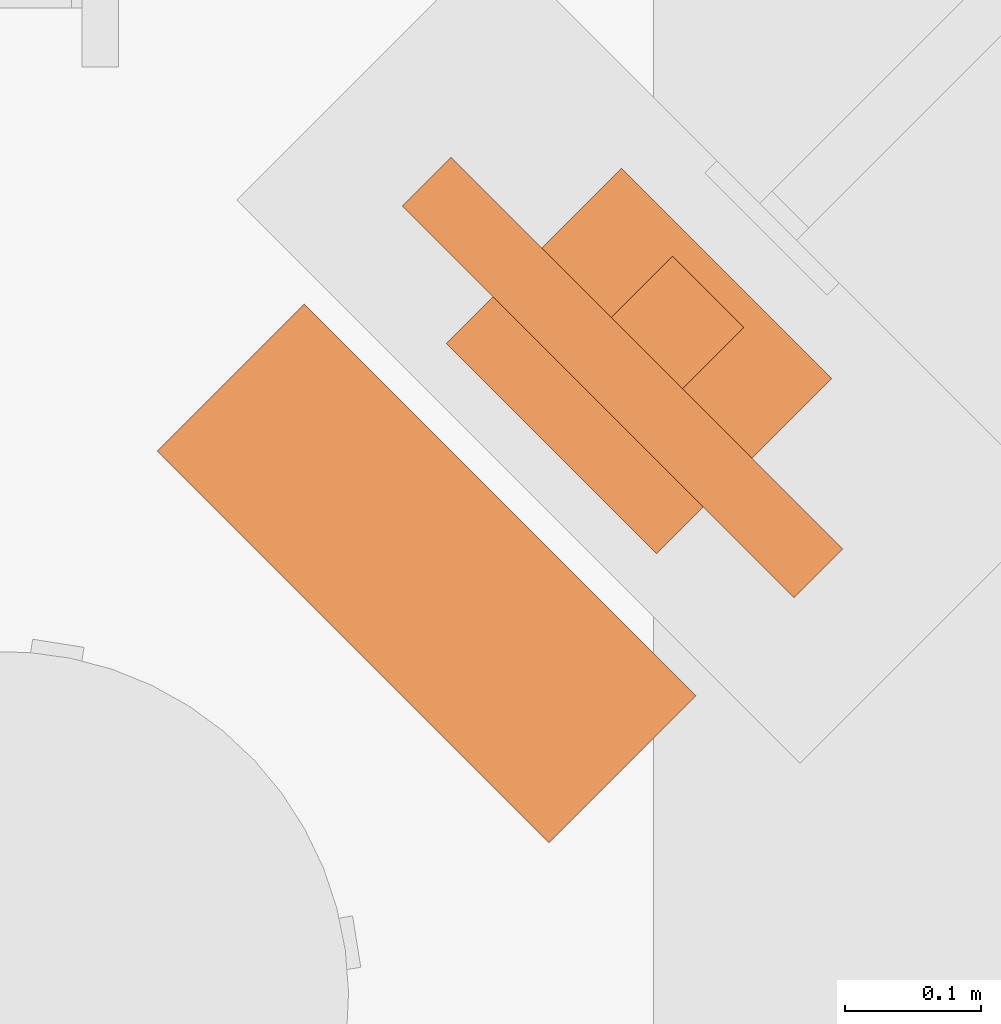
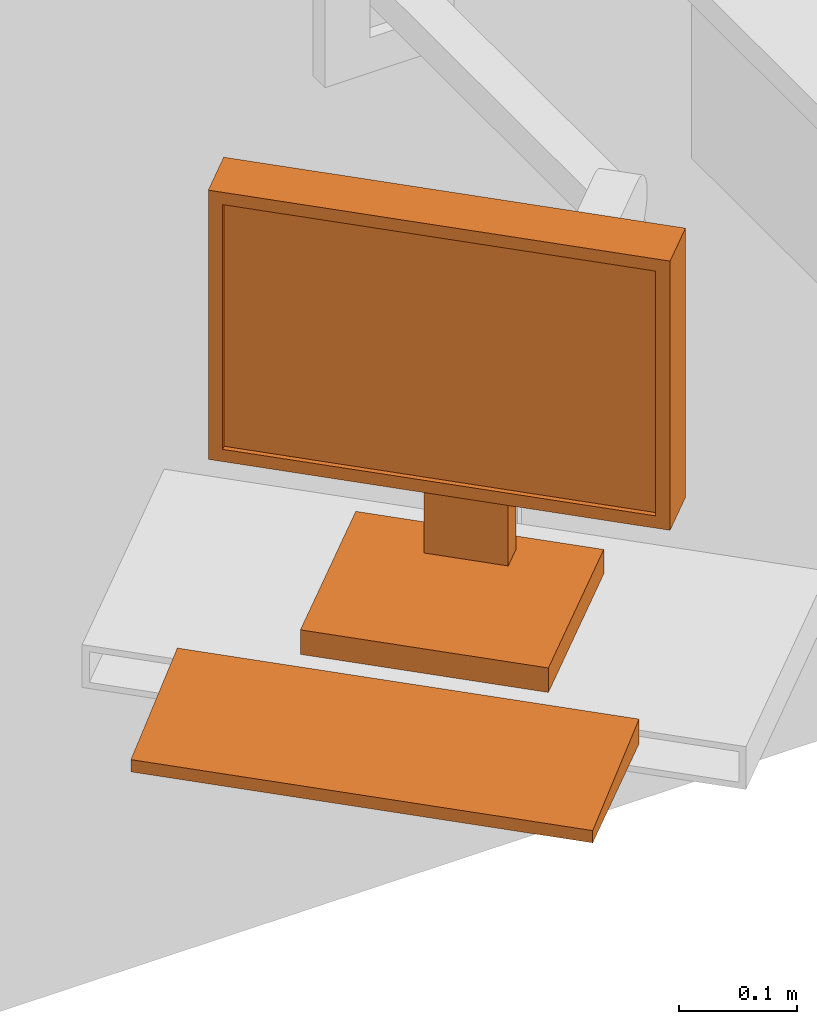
# One storey, part 84 of 142: 1 proxy.
"""IFC2X3 building model written with IfcOpenShell, lengths in feet."""

from ifc_helpers import new_model, entity, si_unit, converted_unit, derived_unit, direction, frame, origin, place, context, subcontext, project, spatial, faceted_brep, source, transform, mapped, type_object, type_shapes, element, save


model = new_model("IFC2X3")

# Units and contexts
model_context = context("Model", 3, precision=0.0001, world=origin(), true_north=direction((6.12303176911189e-17, 1.0)))
body_context = subcontext(model_context, "Body", "Model", "MODEL_VIEW")
ifc_project = project(units=[converted_unit("LENGTHUNIT", "FOOT", entity("IfcRatioMeasure", 0.3048), si_unit("LENGTHUNIT", "METRE"), dimensions=[1, 0, 0, 0, 0, 0, 0]), converted_unit("AREAUNIT", "SQUARE FOOT", entity("IfcRatioMeasure", 0.09290304), si_unit("AREAUNIT", "SQUARE_METRE"), dimensions=[2, 0, 0, 0, 0, 0, 0]), converted_unit("VOLUMEUNIT", "CUBIC FOOT", entity("IfcRatioMeasure", 0.028316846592), si_unit("VOLUMEUNIT", "CUBIC_METRE"), dimensions=[3, 0, 0, 0, 0, 0, 0]), converted_unit("PLANEANGLEUNIT", "DEGREE", entity("IfcRatioMeasure", 0.0174532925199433), si_unit("PLANEANGLEUNIT", "RADIAN"), dimensions=[0, 0, 0, 0, 0, 0, 0]), si_unit("MASSUNIT", "GRAM", prefix="KILO"), derived_unit("MASSDENSITYUNIT", [(si_unit("MASSUNIT", "GRAM", prefix="KILO"), 1), (si_unit("LENGTHUNIT", "METRE"), -3)]), si_unit("TIMEUNIT", "SECOND"), si_unit("FREQUENCYUNIT", "HERTZ"), si_unit("THERMODYNAMICTEMPERATUREUNIT", "DEGREE_CELSIUS"), derived_unit("THERMALTRANSMITTANCEUNIT", [(si_unit("MASSUNIT", "GRAM", prefix="KILO"), 1), (si_unit("THERMODYNAMICTEMPERATUREUNIT", "KELVIN"), -1), (si_unit("TIMEUNIT", "SECOND"), -3)]), derived_unit("VOLUMETRICFLOWRATEUNIT", [(si_unit("LENGTHUNIT", "METRE"), 3), (si_unit("TIMEUNIT", "SECOND"), -1)]), si_unit("ELECTRICCURRENTUNIT", "AMPERE"), si_unit("ELECTRICVOLTAGEUNIT", "VOLT"), si_unit("POWERUNIT", "WATT"), si_unit("FORCEUNIT", "NEWTON"), si_unit("ILLUMINANCEUNIT", "LUX"), si_unit("LUMINOUSFLUXUNIT", "LUMEN"), si_unit("LUMINOUSINTENSITYUNIT", "CANDELA"), derived_unit("USERDEFINED", [(si_unit("MASSUNIT", "GRAM", prefix="KILO"), -1), (si_unit("LENGTHUNIT", "METRE"), -2), (si_unit("TIMEUNIT", "SECOND"), 3), (si_unit("LUMINOUSFLUXUNIT", "LUMEN"), 1)]), derived_unit("LINEARVELOCITYUNIT", [(si_unit("LENGTHUNIT", "METRE"), 1), (si_unit("TIMEUNIT", "SECOND"), -1)]), si_unit("PRESSUREUNIT", "PASCAL"), derived_unit("USERDEFINED", [(si_unit("LENGTHUNIT", "METRE"), -2), (si_unit("MASSUNIT", "GRAM", prefix="KILO"), 1), (si_unit("TIMEUNIT", "SECOND"), -2)])], contexts=[model_context])

# Site, building, storey, space
site_placement = place(None, origin())
site = spatial("IfcSite", under=ifc_project, at=site_placement, Name="Default", CompositionType="ELEMENT")
building_placement = place(site_placement, origin())
building = spatial("IfcBuilding", under=site, at=building_placement, Name="OUTPATIENT / PACT CLINIC (Ch. 265)", CompositionType="ELEMENT")
storey_placement = place(building_placement, origin())
storey = spatial("IfcBuildingStorey", under=building, at=storey_placement, Name="LEVEL 1", CompositionType="ELEMENT", Elevation=0.0)
space_placement = place(storey_placement, origin())
space = spatial("IfcSpace", under=storey, at=space_placement, Name="EXW01", CompositionType="ELEMENT", InteriorOrExteriorSpace="INTERNAL")

# Proxy
building_element_proxy_type = type_object("IfcBuildingElementProxyType", Name="M1801 - Computer with Flat Panel Monitor", PredefinedType="NOTDEFINED")
shared_shape = source(origin(), body_context, "Body", "Brep", [
    faceted_brep([(0.666666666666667, -0.5625, 0.0), (0.666666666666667, -0.0624999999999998, 0.0), (0.666666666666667, -0.0624999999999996, 0.0833333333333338), (0.666666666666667, -0.5625, 0.0416666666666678), (-0.666666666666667, -0.5625, 0.0), (-0.666666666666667, -0.5625, 0.0416666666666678), (-0.666666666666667, -0.0624999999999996, 0.0833333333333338), (-0.666666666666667, -0.0624999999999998, 0.0)], [[[0, 1, 2, 3]], [[4, 5, 6, 7]], [[1, 0, 4, 7]], [[2, 1, 7, 6]], [[3, 2, 6, 5]], [[0, 3, 5, 4]]]),
    faceted_brep([(0.666666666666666, 0.437223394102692, 1.41666666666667), (-0.666666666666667, 0.437223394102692, 1.41666666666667), (-0.666666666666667, 0.271109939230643, 1.41666666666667), (0.666666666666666, 0.271109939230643, 1.41666666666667), (0.666666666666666, 0.437223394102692, 0.500000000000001), (0.666666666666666, 0.271109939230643, 0.500000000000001), (-0.666666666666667, 0.271109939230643, 0.500000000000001), (-0.666666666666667, 0.437223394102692, 0.500000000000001), (-0.625, 0.271109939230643, 1.375), (0.625, 0.271109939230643, 1.375), (0.625, 0.271109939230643, 0.541666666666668), (-0.625, 0.271109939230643, 0.541666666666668), (0.625, 0.286812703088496, 1.375), (-0.625, 0.286812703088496, 1.375), (0.625, 0.286812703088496, 0.541666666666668), (-0.625, 0.286812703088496, 0.541666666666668)], [[[0, 1, 2, 3]], [[4, 5, 6, 7]], [[1, 0, 4, 7]], [[2, 1, 7, 6]], [[3, 2, 6, 5], [8, 9, 10, 11]], [[0, 3, 5, 4]], [[12, 9, 8, 13]], [[14, 15, 11, 10]], [[12, 13, 15, 14]], [[13, 8, 11, 15]], [[9, 12, 14, 10]]]),
    faceted_brep([(0.358011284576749, 0.111770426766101, 0.0833333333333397), (0.358011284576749, 0.111770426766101, 0.0), (0.358011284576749, 0.708333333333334, 0.0), (0.358011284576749, 0.708333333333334, 0.0833333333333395), (-0.358011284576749, 0.708333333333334, 0.0833333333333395), (-0.358011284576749, 0.708333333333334, 0.0), (-0.358011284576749, 0.111770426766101, 0.0), (-0.358011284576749, 0.111770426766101, 0.0833333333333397), (0.12128795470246, 0.645556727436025, 0.104166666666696), (0.12128795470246, 0.645556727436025, 0.0833333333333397), (-0.12128795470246, 0.645556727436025, 0.0833333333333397), (-0.12128795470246, 0.645556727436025, 0.104166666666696), (0.12128795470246, 0.645556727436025, 0.958333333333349), (-0.12128795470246, 0.645556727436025, 0.958333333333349), (0.12128795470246, 0.437223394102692, 0.958333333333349), (-0.12128795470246, 0.437223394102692, 0.958333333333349), (0.12128795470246, 0.437223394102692, 0.791666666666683), (-0.12128795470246, 0.437223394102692, 0.791666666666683), (0.12128795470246, 0.562223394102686, 0.791666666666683), (-0.12128795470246, 0.562223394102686, 0.791666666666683), (0.12128795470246, 0.562223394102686, 0.0833333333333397), (-0.12128795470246, 0.562223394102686, 0.0833333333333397)], [[[0, 1, 2, 3]], [[4, 5, 6, 7]], [[8, 9, 10, 11]], [[12, 8, 11, 13]], [[14, 12, 13, 15]], [[16, 14, 15, 17]], [[18, 16, 17, 19]], [[20, 18, 19, 21]], [[0, 3, 4, 7], [9, 20, 21, 10]], [[1, 0, 7, 6]], [[2, 1, 6, 5]], [[3, 2, 5, 4]], [[20, 9, 8, 12, 14, 16, 18]], [[10, 21, 19, 17, 15, 13, 11]]]),
])
type_shapes(building_element_proxy_type, [shared_shape])
proxy_placement = place(space_placement, frame((443.18019221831, -945.632774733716, 3.02083333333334), z_axis=(0.0, 0.0, 1.0), x_axis=(0.707106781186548, -0.707106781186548, 0.0)))
element("IfcBuildingElementProxy", 1, at=proxy_placement, inside=space, type_object=building_element_proxy_type, Name="M1801 - Computer with Flat Panel Monitor1:M1801 - Computer with Flat Panel Monitor", ObjectType="M1801 - Computer with Flat Panel Monitor", context=body_context, shape_type="MappedRepresentation", body=[
    mapped(shared_shape, transform((0.0, 0.0, 0.0), scale=1.0)),
])

save(model, "model.ifc")
